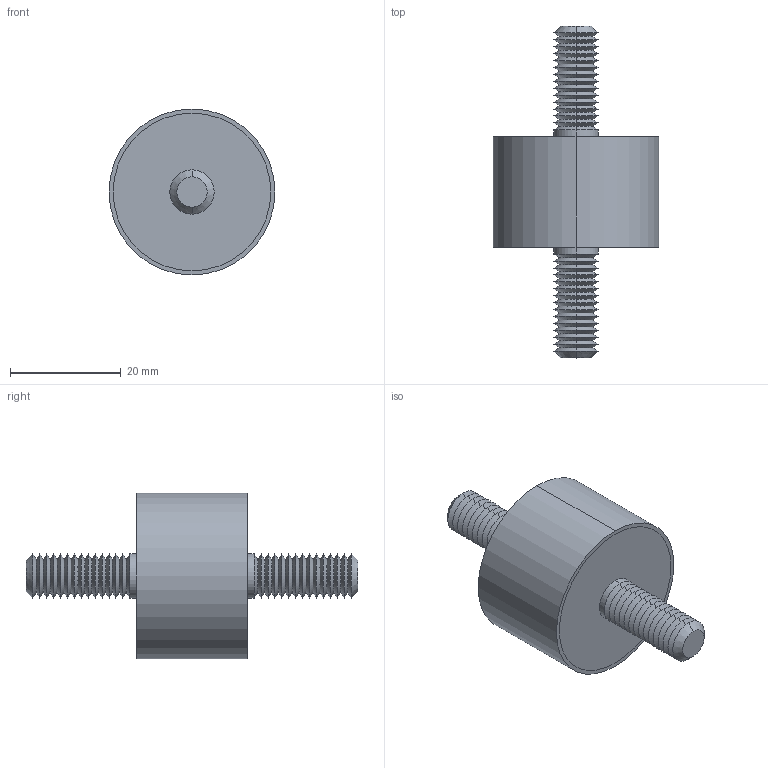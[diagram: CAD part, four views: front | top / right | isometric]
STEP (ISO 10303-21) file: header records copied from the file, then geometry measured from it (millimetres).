
FILE_DESCRIPTION (( 'STEP AP203' ), '1' );
FILE_NAME ('61040.W0304.step', '2019-09-24T22:33:37', ( '' ), ( '' ), 'SwSTEP 2.0', 'SolidWorks 2017', '' );
FILE_SCHEMA (( 'CONFIG_CONTROL_DESIGN' ));
Length unit declared in the file: millimetre
Products named in the file (4): Part2_61040.W0304; Part3_61040.W0304; Part1_61040.W0304; 61040.W0304
Assembly tree (3 placements, depth 2):
  61040.W0304
    Part1_61040.W0304
    Part2_61040.W0304
    Part3_61040.W0304
Bounding box: 30 x 60 x 30 mm (x, y, z)
Volume: 15679.4 mm3; surface area: 7814.6 mm2
Topology: 3 solids, 3 shells, 140 faces, 274 edges, 144 vertices
Faces by surface type: cone 116, cylinder 14, plane 10
Entity records: 3908 total; most frequent: DIRECTION 710, CARTESIAN_POINT 564, ORIENTED_EDGE 548, AXIS2_PLACEMENT_3D 290, EDGE_CURVE 274, CIRCLE 144, VERTEX_POINT 144, EDGE_LOOP 144
